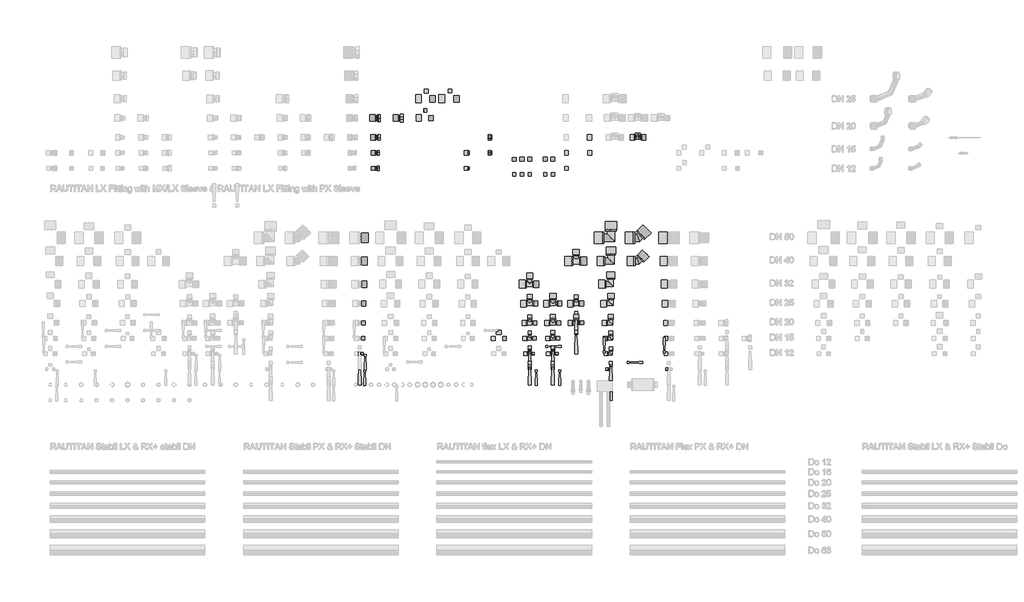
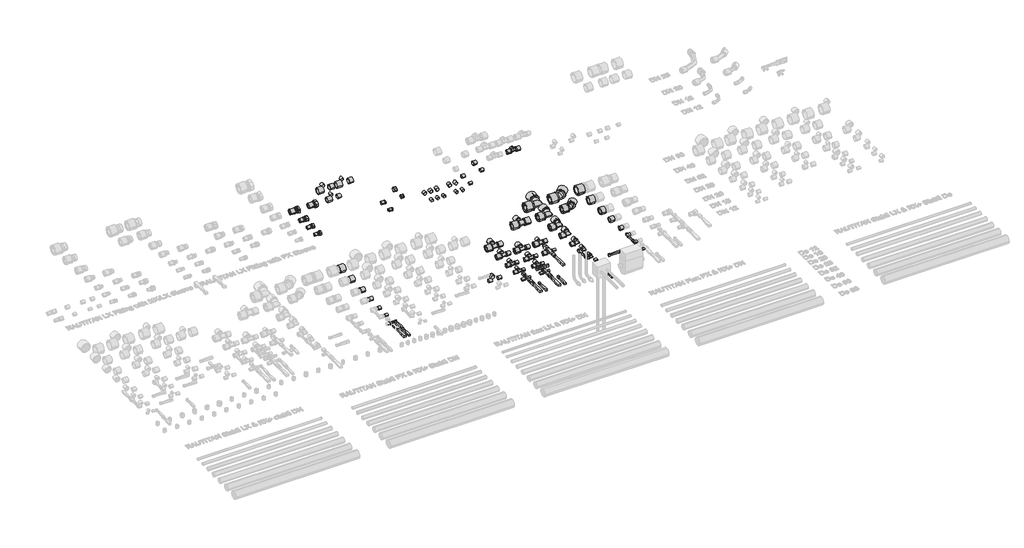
# One storey, part 5 of 18: 139 pipe fittings.
"""IFC4 building model written with IfcOpenShell, lengths in millimetres."""

from ifc_helpers import new_model, si_unit, origin, place, context, project, spatial, transform, mapped, element, save
from components import pipe_fitting_762b57f7, pipe_fitting_a06d4a4a, pipe_fitting_9dffc905, pipe_fitting_918ed5ed, pipe_fitting_eedfb6d1, pipe_fitting_bdd22d68, pipe_fitting_2e8cdfe4, pipe_fitting_aa9c421d, pipe_fitting_244e17d7, pipe_fitting_ff378167, pipe_fitting_f9876a37, pipe_fitting_159ec83a, pipe_fitting_2bffeb97, pipe_fitting_1542a3e7, pipe_fitting_65bb5a8a, pipe_fitting_0ecc4e03, pipe_fitting_cd996b98, pipe_fitting_0ffc8cdd, pipe_fitting_fe676349, pipe_fitting_5bd059d2, pipe_fitting_94e4dc49, pipe_fitting_3f66daf3, pipe_fitting_bdbaf0cc, pipe_fitting_7df122d3, pipe_fitting_ce982b0c, pipe_fitting_0fc6f2a1, pipe_fitting_7ed082ec, pipe_fitting_19f48449, pipe_fitting_b82b2fb3, pipe_fitting_5a7cbde5, pipe_fitting_91b0a5e7, pipe_fitting_dda8fcc3, pipe_fitting_f56030c5, sleeve_lx_7_4_533efbed, pipe_fitting_6fe5a3bb, pipe_fitting_396ce9a4, pipe_fitting_37e15ff8, pipe_fitting_5c01712a, pipe_fitting_b25a488c, sleeve_lx_7_4_d3d6d1e0, pipe_fitting_1876d1a3, dn1_c9c9eba3, dn1_749d9a03, dn1_037c3912, pipe_fitting_a8fbe6ac, pipe_fitting_d8f8e9d9

model = new_model("IFC4")

# Units and contexts
model_context = context("Model", 3, world=origin())
ifc_project = project(units=[si_unit("LENGTHUNIT", "METRE", prefix="MILLI")], contexts=[model_context])

# Site, building, storey
site = spatial("IfcSite", under=ifc_project)
building = spatial("IfcBuilding", under=site)
storey = spatial("IfcBuildingStorey", under=building, Name="REHAU Starting view", Elevation=0.0)

# Pipe fittings
placement = place(None, origin())
pipe_fitting_shape = pipe_fitting_762b57f7(model_context)
element("IfcPipeFitting", 1, ObjectType="REHAU_RAUTITAN_Cap_RX+ : REHAU_RAUTITAN_Cap_RX+", at=placement, inside=storey, context=model_context, shape_type="MappedRepresentation", body=[
    mapped(pipe_fitting_shape, transform((2842.5, 1500.0, 0.0), x_axis=(-1.0, 0.0, 0.0), y_axis=(0.0, -1.0, 0.0), z_axis=(0.0, 0.0, 1.0))),
])
pipe_fitting_2_shape = pipe_fitting_a06d4a4a(model_context)
element("IfcPipeFitting", 2, ObjectType="REHAU_RAUTITAN_Dummy_Plug_RX+ : REHAU_RAUTITAN_Dummy_Plug_RX+", at=placement, inside=storey, context=model_context, shape_type="MappedRepresentation", body=[
    mapped(pipe_fitting_2_shape, transform((2704.3, 1400.0, 0.0), x_axis=(-1.0, 0.0, 0.0), y_axis=(0.0, -1.0, 0.0), z_axis=(0.0, 0.0, 1.0))),
])
pipe_fitting_3_shape = pipe_fitting_9dffc905(model_context)
element("IfcPipeFitting", 3, ObjectType="RAUTITAN_T-piece_LX : RTI LX/PX T DN", at=placement, inside=storey, context=model_context, shape_type="MappedRepresentation", body=[
    mapped(pipe_fitting_3_shape, transform((3100.0, 100.0, 0.0), x_axis=(1.0, 0.0, 0.0), y_axis=(0.0, 1.0, 0.0), z_axis=(0.0, 0.0, 1.0))),
])
pipe_fitting_4_shape = pipe_fitting_918ed5ed(model_context)
element("IfcPipeFitting", 4, ObjectType="RAUTITAN_T-piece_LX : RTI LX/PX T DN", at=placement, inside=storey, context=model_context, shape_type="MappedRepresentation", body=[
    mapped(pipe_fitting_4_shape, transform((3100.0, 300.0, 0.0), x_axis=(1.0, 0.0, 0.0), y_axis=(0.0, 1.0, 0.0), z_axis=(0.0, 0.0, 1.0))),
])
pipe_fitting_5_shape = pipe_fitting_eedfb6d1(model_context)
element("IfcPipeFitting", 5, ObjectType="RAUTITAN_T-piece_LX : RTI LX/PX T DN", at=placement, inside=storey, context=model_context, shape_type="MappedRepresentation", body=[
    mapped(pipe_fitting_5_shape, transform((3100.0, 425.0, 0.0), x_axis=(1.0, 0.0, 0.0), y_axis=(0.0, 1.0, 0.0), z_axis=(0.0, 0.0, 1.0))),
])
pipe_fitting_6_shape = pipe_fitting_bdd22d68(model_context)
element("IfcPipeFitting", 6, ObjectType="RAUTITAN_T-piece_LX : RTI LX/PX T DN", at=placement, inside=storey, context=model_context, shape_type="MappedRepresentation", body=[
    mapped(pipe_fitting_6_shape, transform((3100.0, 550.0, 0.0), x_axis=(1.0, 0.0, 0.0), y_axis=(0.0, 1.0, 0.0), z_axis=(0.0, 0.0, 1.0))),
])
pipe_fitting_7_shape = pipe_fitting_2e8cdfe4(model_context)
element("IfcPipeFitting", 7, ObjectType="RAUTITAN_T-piece_LX : RTI LX/PX T DN", at=placement, inside=storey, context=model_context, shape_type="MappedRepresentation", body=[
    mapped(pipe_fitting_7_shape, transform((3100.0, 200.0, 0.0), x_axis=(1.0, 0.0, 0.0), y_axis=(0.0, 1.0, 0.0), z_axis=(0.0, 0.0, 1.0))),
])
pipe_fitting_8_shape = pipe_fitting_aa9c421d(model_context)
element("IfcPipeFitting", 8, ObjectType="RAUTITAN_T-piece_LX : RTI LX/PX T DN", at=placement, inside=storey, context=model_context, shape_type="MappedRepresentation", body=[
    mapped(pipe_fitting_8_shape, transform((3250.0, 100.0, 0.0), x_axis=(1.0, 0.0, 0.0), y_axis=(0.0, 1.0, 0.0), z_axis=(0.0, 0.0, 1.0))),
])
pipe_fitting_9_shape = pipe_fitting_244e17d7(model_context)
element("IfcPipeFitting", 9, ObjectType="RAUTITAN_T-piece_LX : RTI LX/PX T DN", at=placement, inside=storey, context=model_context, shape_type="MappedRepresentation", body=[
    mapped(pipe_fitting_9_shape, transform((3250.0, 300.0, 0.0), x_axis=(1.0, 0.0, 0.0), y_axis=(0.0, 1.0, 0.0), z_axis=(0.0, 0.0, 1.0))),
])
pipe_fitting_10_shape = pipe_fitting_ff378167(model_context)
element("IfcPipeFitting", 10, ObjectType="RAUTITAN_T-piece_LX : RTI LX/PX T DN", at=placement, inside=storey, context=model_context, shape_type="MappedRepresentation", body=[
    mapped(pipe_fitting_10_shape, transform((3250.0, 425.0, 0.0), x_axis=(1.0, 0.0, 0.0), y_axis=(0.0, 1.0, 0.0), z_axis=(0.0, 0.0, 1.0))),
])
pipe_fitting_11_shape = pipe_fitting_f9876a37(model_context)
element("IfcPipeFitting", 11, ObjectType="RAUTITAN_T-piece_LX : RTI LX/PX T DN", at=placement, inside=storey, context=model_context, shape_type="MappedRepresentation", body=[
    mapped(pipe_fitting_11_shape, transform((3250.0, 200.0, 0.0), x_axis=(1.0, 0.0, 0.0), y_axis=(0.0, 1.0, 0.0), z_axis=(0.0, 0.0, 1.0))),
])
pipe_fitting_12_shape = pipe_fitting_159ec83a(model_context)
element("IfcPipeFitting", 12, ObjectType="RAUTITAN_T-piece_LX : RTI LX/PX T DN", at=placement, inside=storey, context=model_context, shape_type="MappedRepresentation", body=[
    mapped(pipe_fitting_12_shape, transform((3400.0, 700.0, 0.0), x_axis=(1.0, 0.0, 0.0), y_axis=(0.0, 1.0, 0.0), z_axis=(0.0, 0.0, 1.0))),
])
pipe_fitting_13_shape = pipe_fitting_2bffeb97(model_context)
element("IfcPipeFitting", 13, ObjectType="RAUTITAN_T-piece_LX : RTI LX/PX T DN", at=placement, inside=storey, context=model_context, shape_type="MappedRepresentation", body=[
    mapped(pipe_fitting_13_shape, transform((3400.0, 300.0, 0.0), x_axis=(1.0, 0.0, 0.0), y_axis=(0.0, 1.0, 0.0), z_axis=(0.0, 0.0, 1.0))),
])
pipe_fitting_14_shape = pipe_fitting_1542a3e7(model_context)
element("IfcPipeFitting", 14, ObjectType="RAUTITAN_T-piece_LX : RTI LX/PX T DN", at=placement, inside=storey, context=model_context, shape_type="MappedRepresentation", body=[
    mapped(pipe_fitting_14_shape, transform((3400.0, 425.0, 0.0), x_axis=(1.0, 0.0, 0.0), y_axis=(0.0, 1.0, 0.0), z_axis=(0.0, 0.0, 1.0))),
])
pipe_fitting_15_shape = pipe_fitting_65bb5a8a(model_context)
element("IfcPipeFitting", 15, ObjectType="REHAU_RAUTITAN_T-piece RX+, outlet with internal thread : REHAU_RAUTITAN_T-piece RX+, outlet with internal thread", at=placement, inside=storey, context=model_context, shape_type="MappedRepresentation", body=[
    mapped(pipe_fitting_15_shape, transform((3800.0, 1500.0, 0.0), x_axis=(1.0, 0.0, 0.0), y_axis=(0.0, 1.0, 0.0), z_axis=(0.0, 0.0, 1.0))),
])
pipe_fitting_16_shape = pipe_fitting_0ecc4e03(model_context)
element("IfcPipeFitting", 16, ObjectType="REHAU_RAUTITAN_Adaptor_RX+_union nut : REHAU_RAUTITAN_Adaptor_RX+_union nut", at=placement, inside=storey, context=model_context, shape_type="MappedRepresentation", body=[
    mapped(pipe_fitting_16_shape, transform((2107.5, 1300.0, 0.0), x_axis=(1.0, 0.0, 0.0), y_axis=(0.0, 1.0, 0.0), z_axis=(0.0, 0.0, 1.0))),
])
pipe_fitting_17_shape = pipe_fitting_cd996b98(model_context)
element("IfcPipeFitting", 17, ObjectType="REHAU_RAUTITAN_Adaptor_RX+_union nut : REHAU_RAUTITAN_Adaptor_RX+_union nut", at=placement, inside=storey, context=model_context, shape_type="MappedRepresentation", body=[
    mapped(pipe_fitting_17_shape, transform((2107.9, 1400.0, 0.0), x_axis=(1.0, 0.0, 0.0), y_axis=(0.0, 1.0, 0.0), z_axis=(0.0, 0.0, 1.0))),
])
pipe_fitting_18_shape = pipe_fitting_0ffc8cdd(model_context)
element("IfcPipeFitting", 18, ObjectType="REHAU_RAUTITAN_Adaptor_RX+_union nut : REHAU_RAUTITAN_Adaptor_RX+_union nut", at=placement, inside=storey, context=model_context, shape_type="MappedRepresentation", body=[
    mapped(pipe_fitting_18_shape, transform((2109.65, 1500.0, 0.0), x_axis=(1.0, 0.0, 0.0), y_axis=(0.0, 1.0, 0.0), z_axis=(0.0, 0.0, 1.0))),
])
pipe_fitting_19_shape = pipe_fitting_fe676349(model_context)
element("IfcPipeFitting", 19, ObjectType="REHAU_RAUTITAN_Adaptor_RX+_union nut : REHAU_RAUTITAN_Adaptor_RX+_union nut", at=placement, inside=storey, context=model_context, shape_type="MappedRepresentation", body=[
    mapped(pipe_fitting_19_shape, transform((2110.5, 1625.0, 0.0), x_axis=(1.0, 0.0, 0.0), y_axis=(0.0, 1.0, 0.0), z_axis=(0.0, 0.0, 1.0))),
])
pipe_fitting_20_shape = pipe_fitting_5bd059d2(model_context)
element("IfcPipeFitting", 20, ObjectType="REHAU_RAUTITAN_Adaptor_RX+_union nut : REHAU_RAUTITAN_Adaptor_RX+_union nut", at=placement, inside=storey, context=model_context, shape_type="MappedRepresentation", body=[
    mapped(pipe_fitting_20_shape, transform((2258.0, 1625.0, 0.0), x_axis=(1.0, 0.0, 0.0), y_axis=(0.0, 1.0, 0.0), z_axis=(0.0, 0.0, 1.0))),
])
pipe_fitting_21_shape = pipe_fitting_94e4dc49(model_context)
element("IfcPipeFitting", 21, ObjectType="REHAU_RAUTITAN_Dummy_Plug_RX+ : REHAU_RAUTITAN_Dummy_Plug_RX+", at=placement, inside=storey, context=model_context, shape_type="MappedRepresentation", body=[
    mapped(pipe_fitting_21_shape, transform((2703.8, 1300.0, 0.0), x_axis=(-1.0, 0.0, 0.0), y_axis=(0.0, -1.0, 0.0), z_axis=(0.0, 0.0, 1.0))),
])
pipe_fitting_22_shape = pipe_fitting_3f66daf3(model_context)
element("IfcPipeFitting", 22, ObjectType="REHAU_RAUTITAN_Cap_RX+ : REHAU_RAUTITAN_Cap_RX+", at=placement, inside=storey, context=model_context, shape_type="MappedRepresentation", body=[
    mapped(pipe_fitting_22_shape, transform((2843.25, 1400.0, 0.0), x_axis=(-1.0, 0.0, 0.0), y_axis=(0.0, -1.0, 0.0), z_axis=(0.0, 0.0, 1.0))),
])
pipe_fitting_23_shape = pipe_fitting_bdbaf0cc(model_context)
element("IfcPipeFitting", 23, ObjectType="RAUTITAN_Corner_LX : RTI LX/PX C DN", at=placement, inside=storey, context=model_context, shape_type="MappedRepresentation", body=[
    mapped(pipe_fitting_23_shape, transform((3625.0, 100.0, 0.0), x_axis=(1.0, 0.0, 0.0), y_axis=(0.0, 1.0, 0.0), z_axis=(0.0, 0.0, 1.0))),
])
pipe_fitting_24_shape = pipe_fitting_7df122d3(model_context)
element("IfcPipeFitting", 24, ObjectType="RAUTITAN_Corner_LX : RTI LX/PX C DN", at=placement, inside=storey, context=model_context, shape_type="MappedRepresentation", body=[
    mapped(pipe_fitting_24_shape, transform((3625.0, 0.0, 0.0), x_axis=(1.0, 0.0, 0.0), y_axis=(0.0, 1.0, 0.0), z_axis=(0.0, 0.0, 1.0))),
])
pipe_fitting_25_shape = pipe_fitting_ce982b0c(model_context)
element("IfcPipeFitting", 25, ObjectType="RAUTITAN_Transition_LX : RTI LX Tr DN", at=placement, inside=storey, context=model_context, shape_type="MappedRepresentation", body=[
    mapped(pipe_fitting_25_shape, transform((2000.0, 100.0, 0.0), x_axis=(1.0, 0.0, 0.0), y_axis=(0.0, 1.0, 0.0), z_axis=(0.0, 0.0, 1.0))),
])
pipe_fitting_26_shape = pipe_fitting_0fc6f2a1(model_context)
element("IfcPipeFitting", 26, ObjectType="RAUTITAN_Corner_LX : RTI LX/PX C DN", at=placement, inside=storey, context=model_context, shape_type="MappedRepresentation", body=[
    mapped(pipe_fitting_26_shape, transform((3800.0, 850.0, 0.0), x_axis=(1.0, 0.0, 0.0), y_axis=(0.0, 1.0, 0.0), z_axis=(0.0, 0.0, 1.0))),
])
pipe_fitting_27_shape = pipe_fitting_7ed082ec(model_context)
element("IfcPipeFitting", 27, ObjectType="RAUTITAN_Corner_LX : RTI LX/PX C DN", at=placement, inside=storey, context=model_context, shape_type="MappedRepresentation", body=[
    mapped(pipe_fitting_27_shape, transform((3625.0, 200.0, 0.0), x_axis=(1.0, 0.0, 0.0), y_axis=(0.0, 1.0, 0.0), z_axis=(0.0, 0.0, 1.0))),
])
pipe_fitting_28_shape = pipe_fitting_19f48449(model_context)
element("IfcPipeFitting", 28, ObjectType="RAUTITAN_Corner_LX : RTI LX/PX C DN", at=placement, inside=storey, context=model_context, shape_type="MappedRepresentation", body=[
    mapped(pipe_fitting_28_shape, transform((3625.0, 300.0, 0.0), x_axis=(1.0, 0.0, 0.0), y_axis=(0.0, 1.0, 0.0), z_axis=(0.0, 0.0, 1.0))),
])
pipe_fitting_29_shape = pipe_fitting_b82b2fb3(model_context)
element("IfcPipeFitting", 29, ObjectType="RAUTITAN_Corner_LX : RTI LX/PX C DN", at=placement, inside=storey, context=model_context, shape_type="MappedRepresentation", body=[
    mapped(pipe_fitting_29_shape, transform((3625.0, 425.0, 0.0), x_axis=(1.0, 0.0, 0.0), y_axis=(0.0, 1.0, 0.0), z_axis=(0.0, 0.0, 1.0))),
])
pipe_fitting_30_shape = pipe_fitting_5a7cbde5(model_context)
element("IfcPipeFitting", 30, ObjectType="RAUTITAN_Corner_LX : RTI LX/PX C DN", at=placement, inside=storey, context=model_context, shape_type="MappedRepresentation", body=[
    mapped(pipe_fitting_30_shape, transform((3625.0, 550.0, 0.0), x_axis=(1.0, 0.0, 0.0), y_axis=(0.0, 1.0, 0.0), z_axis=(0.0, 0.0, 1.0))),
])
pipe_fitting_31_shape = pipe_fitting_91b0a5e7(model_context)
element("IfcPipeFitting", 31, ObjectType="RAUTITAN_Corner_LX : RTI LX/PX C DN", at=placement, inside=storey, context=model_context, shape_type="MappedRepresentation", body=[
    mapped(pipe_fitting_31_shape, transform((3625.0, 700.0, 0.0), x_axis=(1.0, 0.0, 0.0), y_axis=(0.0, 1.0, 0.0), z_axis=(0.0, 0.0, 1.0))),
])
pipe_fitting_32_shape = pipe_fitting_dda8fcc3(model_context)
element("IfcPipeFitting", 32, ObjectType="RAUTITAN_Corner_LX : RTI LX/PX C DN", at=placement, inside=storey, context=model_context, shape_type="MappedRepresentation", body=[
    mapped(pipe_fitting_32_shape, transform((3625.0, 850.0, 0.0), x_axis=(1.0, 0.0, 0.0), y_axis=(0.0, 1.0, 0.0), z_axis=(0.0, 0.0, 1.0))),
])
pipe_fitting_33_shape = pipe_fitting_f56030c5(model_context)
element("IfcPipeFitting", 33, ObjectType="RAUTITAN_Corner_LX : RTI LX/PX C DN", at=placement, inside=storey, context=model_context, shape_type="MappedRepresentation", body=[
    mapped(pipe_fitting_33_shape, transform((3800.0, 700.0, 0.0), x_axis=(1.0, 0.0, 0.0), y_axis=(0.0, 1.0, 0.0), z_axis=(0.0, 0.0, 1.0))),
])
sleeve_lx_7_4_shape = sleeve_lx_7_4_533efbed(model_context)
element("IfcPipeFitting", 34, ObjectType="Sleeve : LX 7,4", at=placement, inside=storey, context=model_context, shape_type="MappedRepresentation", body=[
    mapped(sleeve_lx_7_4_shape, transform((3100.0, 122.0, 0.0), x_axis=(0.0, 1.0, 0.0), y_axis=(-1.0, 0.0, 0.0), z_axis=(0.0, 0.0, 1.0))),
])
element("IfcPipeFitting", 35, ObjectType="Sleeve : LX 7,4", at=placement, inside=storey, context=model_context, shape_type="MappedRepresentation", body=[
    mapped(sleeve_lx_7_4_shape, transform((3115.5, 100.0, 0.0), x_axis=(1.0, 0.0, 0.0), y_axis=(0.0, 1.0, 0.0), z_axis=(0.0, 0.0, 1.0))),
])
element("IfcPipeFitting", 36, ObjectType="Sleeve : LX 7,4", at=placement, inside=storey, context=model_context, shape_type="MappedRepresentation", body=[
    mapped(sleeve_lx_7_4_shape, transform((3268.3, 100.0, 0.0), x_axis=(1.0, 0.0, 0.0), y_axis=(0.0, 1.0, 0.0), z_axis=(0.0, 0.0, 1.0))),
])
element("IfcPipeFitting", 37, ObjectType="Sleeve : LX 7,4", at=placement, inside=storey, context=model_context, shape_type="MappedRepresentation", body=[
    mapped(sleeve_lx_7_4_shape, transform((3994.5, 0.0, 0.0), x_axis=(-1.0, 0.0, 0.0), y_axis=(0.0, -1.0, 0.0), z_axis=(0.0, 0.0, 1.0))),
])
element("IfcPipeFitting", 38, ObjectType="Sleeve : LX 7,4", at=placement, inside=storey, context=model_context, shape_type="MappedRepresentation", body=[
    mapped(sleeve_lx_7_4_shape, transform((3607.0, 0.0, 0.0), x_axis=(-1.0, 0.0, 0.0), y_axis=(0.0, -1.0, 0.0), z_axis=(0.0, 0.0, 1.0))),
])
element("IfcPipeFitting", 39, ObjectType="Sleeve : LX 7,4", at=placement, inside=storey, context=model_context, shape_type="MappedRepresentation", body=[
    mapped(sleeve_lx_7_4_shape, transform((3625.0, 18.0, 0.0), x_axis=(0.0, 1.0, 0.0), y_axis=(-1.0, 0.0, 0.0), z_axis=(0.0, 0.0, 1.0))),
])
element("IfcPipeFitting", 40, ObjectType="Sleeve : LX 7,4", at=placement, inside=storey, context=model_context, shape_type="MappedRepresentation", body=[
    mapped(sleeve_lx_7_4_shape, transform((2008.5, 100.0, 0.0), x_axis=(1.0, 0.0, 0.0), y_axis=(0.0, 1.0, 0.0), z_axis=(0.0, 0.0, 1.0))),
])
pipe_fitting_34_shape = pipe_fitting_6fe5a3bb(model_context)
element("IfcPipeFitting", 41, ObjectType="Sleeve : LX 7,4", at=placement, inside=storey, context=model_context, shape_type="MappedRepresentation", body=[
    mapped(pipe_fitting_34_shape, transform((2010.0, 300.0, 0.0), x_axis=(1.0, 0.0, 0.0), y_axis=(0.0, 1.0, 0.0), z_axis=(0.0, 0.0, 1.0))),
])
pipe_fitting_35_shape = pipe_fitting_396ce9a4(model_context)
element("IfcPipeFitting", 42, ObjectType="Sleeve : LX 7,4", at=placement, inside=storey, context=model_context, shape_type="MappedRepresentation", body=[
    mapped(pipe_fitting_35_shape, transform((2011.85, 425.0, 0.0), x_axis=(1.0, 0.0, 0.0), y_axis=(0.0, 1.0, 0.0), z_axis=(0.0, 0.0, 1.0))),
])
pipe_fitting_36_shape = pipe_fitting_37e15ff8(model_context)
element("IfcPipeFitting", 43, ObjectType="Sleeve : LX 7,4", at=placement, inside=storey, context=model_context, shape_type="MappedRepresentation", body=[
    mapped(pipe_fitting_36_shape, transform((2011.0, 700.0, 0.0), x_axis=(1.0, 0.0, 0.0), y_axis=(0.0, 1.0, 0.0), z_axis=(0.0, 0.0, 1.0))),
])
pipe_fitting_37_shape = pipe_fitting_5c01712a(model_context)
element("IfcPipeFitting", 44, ObjectType="Sleeve : LX 7,4", at=placement, inside=storey, context=model_context, shape_type="MappedRepresentation", body=[
    mapped(pipe_fitting_37_shape, transform((3579.0, 700.0, 0.0), x_axis=(-1.0, 0.0, 0.0), y_axis=(0.0, -1.0, 0.0), z_axis=(0.0, 0.0, 1.0))),
])
element("IfcPipeFitting", 45, ObjectType="Sleeve : LX 7,4", at=placement, inside=storey, context=model_context, shape_type="MappedRepresentation", body=[
    mapped(pipe_fitting_37_shape, transform((3625.0, 746.0, 0.0), x_axis=(0.0, 1.0, 0.0), y_axis=(-1.0, 0.0, 0.0), z_axis=(0.0, 0.0, 1.0))),
])
element("IfcPipeFitting", 46, ObjectType="Sleeve : LX 7,4", at=placement, inside=storey, context=model_context, shape_type="MappedRepresentation", body=[
    mapped(pipe_fitting_37_shape, transform((3774.0, 700.0, 0.0), x_axis=(-1.0, 0.0, 0.0), y_axis=(0.0, -1.0, 0.0), z_axis=(0.0, 0.0, 1.0))),
])
element("IfcPipeFitting", 47, ObjectType="Sleeve : LX 7,4", at=placement, inside=storey, context=model_context, shape_type="MappedRepresentation", body=[
    mapped(pipe_fitting_37_shape, transform((3818.3847763, 718.3847763, 0.0), x_axis=(0.7071067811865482, 0.7071067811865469, 0.0), y_axis=(-0.7071067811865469, 0.7071067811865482, 0.0), z_axis=(0.0, 0.0, 1.0))),
])
element("IfcPipeFitting", 48, ObjectType="Sleeve : LX 7,4", at=placement, inside=storey, context=model_context, shape_type="MappedRepresentation", body=[
    mapped(pipe_fitting_37_shape, transform((3370.5, 700.0, 0.0), x_axis=(-1.0, 0.0, 0.0), y_axis=(0.0, -1.0, 0.0), z_axis=(0.0, 0.0, 1.0))),
])
element("IfcPipeFitting", 49, ObjectType="Sleeve : LX 7,4", at=placement, inside=storey, context=model_context, shape_type="MappedRepresentation", body=[
    mapped(pipe_fitting_37_shape, transform((2011.75, 850.0, 0.0), x_axis=(1.0, 0.0, 0.0), y_axis=(0.0, 1.0, 0.0), z_axis=(0.0, 0.0, 1.0))),
])
element("IfcPipeFitting", 50, ObjectType="Sleeve : LX 7,4", at=placement, inside=storey, context=model_context, shape_type="MappedRepresentation", body=[
    mapped(pipe_fitting_37_shape, transform((3989.0, 700.0, 0.0), x_axis=(-1.0, 0.0, 0.0), y_axis=(0.0, -1.0, 0.0), z_axis=(0.0, 0.0, 1.0))),
])
pipe_fitting_38_shape = pipe_fitting_b25a488c(model_context)
element("IfcPipeFitting", 51, ObjectType="Sleeve : LX 7,4", at=placement, inside=storey, context=model_context, shape_type="MappedRepresentation", body=[
    mapped(pipe_fitting_38_shape, transform((3571.0, 850.0, 0.0), x_axis=(-1.0, 0.0, 0.0), y_axis=(0.0, -1.0, 0.0), z_axis=(0.0, 0.0, 1.0))),
])
element("IfcPipeFitting", 52, ObjectType="Sleeve : LX 7,4", at=placement, inside=storey, context=model_context, shape_type="MappedRepresentation", body=[
    mapped(pipe_fitting_38_shape, transform((3625.0, 904.0, 0.0), x_axis=(0.0, 1.0, 0.0), y_axis=(-1.0, 0.0, 0.0), z_axis=(0.0, 0.0, 1.0))),
])
element("IfcPipeFitting", 53, ObjectType="Sleeve : LX 7,4", at=placement, inside=storey, context=model_context, shape_type="MappedRepresentation", body=[
    mapped(pipe_fitting_38_shape, transform((3770.7, 850.0, 0.0), x_axis=(-1.0, 0.0, 0.0), y_axis=(0.0, -1.0, 0.0), z_axis=(0.0, 0.0, 1.0))),
])
element("IfcPipeFitting", 54, ObjectType="Sleeve : LX 7,4", at=placement, inside=storey, context=model_context, shape_type="MappedRepresentation", body=[
    mapped(pipe_fitting_38_shape, transform((3820.7182287, 870.7182287, 0.0), x_axis=(0.7071067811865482, 0.7071067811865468, 0.0), y_axis=(-0.7071067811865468, 0.7071067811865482, 0.0), z_axis=(0.0, 0.0, 1.0))),
])
element("IfcPipeFitting", 55, ObjectType="Sleeve : LX 7,4", at=placement, inside=storey, context=model_context, shape_type="MappedRepresentation", body=[
    mapped(pipe_fitting_38_shape, transform((3987.5, 850.0, 0.0), x_axis=(-1.0, 0.0, 0.0), y_axis=(0.0, -1.0, 0.0), z_axis=(0.0, 0.0, 1.0))),
])
sleeve_lx_7_4_2_shape = sleeve_lx_7_4_d3d6d1e0(model_context)
element("IfcPipeFitting", 56, ObjectType="Sleeve : LX 7,4", at=placement, inside=storey, context=model_context, shape_type="MappedRepresentation", body=[
    mapped(sleeve_lx_7_4_2_shape, transform((2009.55, 200.0, 0.0), x_axis=(1.0, 0.0, 0.0), y_axis=(0.0, 1.0, 0.0), z_axis=(0.0, 0.0, 1.0))),
])
pipe_fitting_39_shape = pipe_fitting_1876d1a3(model_context)
element("IfcPipeFitting", 57, ObjectType="Sleeve : LX 7,4", at=placement, inside=storey, context=model_context, shape_type="MappedRepresentation", body=[
    mapped(pipe_fitting_39_shape, transform((2012.65, 550.0, 0.0), x_axis=(1.0, 0.0, 0.0), y_axis=(0.0, 1.0, 0.0), z_axis=(0.0, 0.0, 1.0))),
])
dn1_shape = dn1_c9c9eba3(model_context)
element("IfcPipeFitting", 58, ObjectType="Sleeve : PX 7,4", at=placement, inside=storey, context=model_context, shape_type="MappedRepresentation", body=[
    mapped(dn1_shape, transform((3604.0, 100.0, 0.0), x_axis=(-1.0, 0.0, 0.0), y_axis=(0.0, -1.0, 0.0), z_axis=(0.0, 0.0, 1.0))),
])
element("IfcPipeFitting", 59, ObjectType="Sleeve : PX 7,4", at=placement, inside=storey, context=model_context, shape_type="MappedRepresentation", body=[
    mapped(dn1_shape, transform((3625.0, 121.0, 0.0), x_axis=(0.0, 1.0, 0.0), y_axis=(-1.0, 0.0, 0.0), z_axis=(0.0, 0.0, 1.0))),
])
element("IfcPipeFitting", 60, ObjectType="Sleeve : PX 7,4", at=placement, inside=storey, context=model_context, shape_type="MappedRepresentation", body=[
    mapped(dn1_shape, transform((3084.4, 100.0, 0.0), x_axis=(-1.0, 0.0, 0.0), y_axis=(0.0, -1.0, 0.0), z_axis=(0.0, 0.0, 1.0))),
])
element("IfcPipeFitting", 61, ObjectType="Sleeve : PX 7,4", at=placement, inside=storey, context=model_context, shape_type="MappedRepresentation", body=[
    mapped(dn1_shape, transform((3100.0, 223.7, 0.0), x_axis=(0.0, 1.0, 0.0), y_axis=(-1.0, 0.0, 0.0), z_axis=(0.0, 0.0, 1.0))),
])
element("IfcPipeFitting", 62, ObjectType="Sleeve : PX 7,4", at=placement, inside=storey, context=model_context, shape_type="MappedRepresentation", body=[
    mapped(dn1_shape, transform((3118.6, 200.0, 0.0), x_axis=(1.0, 0.0, 0.0), y_axis=(0.0, 1.0, 0.0), z_axis=(0.0, 0.0, 1.0))),
])
element("IfcPipeFitting", 63, ObjectType="Sleeve : PX 7,4", at=placement, inside=storey, context=model_context, shape_type="MappedRepresentation", body=[
    mapped(dn1_shape, transform((3231.4, 100.0, 0.0), x_axis=(-1.0, 0.0, 0.0), y_axis=(0.0, -1.0, 0.0), z_axis=(0.0, 0.0, 1.0))),
])
element("IfcPipeFitting", 64, ObjectType="Sleeve : PX 7,4", at=placement, inside=storey, context=model_context, shape_type="MappedRepresentation", body=[
    mapped(dn1_shape, transform((3250.0, 122.3, 0.0), x_axis=(0.0, 1.0, 0.0), y_axis=(-1.0, 0.0, 0.0), z_axis=(0.0, 0.0, 1.0))),
])
element("IfcPipeFitting", 65, ObjectType="Sleeve : PX 7,4", at=placement, inside=storey, context=model_context, shape_type="MappedRepresentation", body=[
    mapped(dn1_shape, transform((3270.6, 200.0, 0.0), x_axis=(1.0, 0.0, 0.0), y_axis=(0.0, 1.0, 0.0), z_axis=(0.0, 0.0, 1.0))),
])
element("IfcPipeFitting", 66, ObjectType="Sleeve : PX 7,4", at=placement, inside=storey, context=model_context, shape_type="MappedRepresentation", body=[
    mapped(dn1_shape, transform((3424.1, 300.0, 0.0), x_axis=(1.0, 0.0, 0.0), y_axis=(0.0, 1.0, 0.0), z_axis=(0.0, 0.0, 1.0))),
])
element("IfcPipeFitting", 67, ObjectType="Sleeve : PX 7,4", at=placement, inside=storey, context=model_context, shape_type="MappedRepresentation", body=[
    mapped(dn1_shape, transform((3993.7, 100.0, 0.0), x_axis=(-1.0, 0.0, 0.0), y_axis=(0.0, -1.0, 0.0), z_axis=(0.0, 0.0, 1.0))),
])
element("IfcPipeFitting", 68, ObjectType="Sleeve : PX 7,4", at=placement, inside=storey, context=model_context, shape_type="MappedRepresentation", body=[
    mapped(dn1_shape, transform((2424.74, 1661.8, 0.0), x_axis=(0.0, 1.0, 0.0), y_axis=(1.0, 0.0, 0.0), z_axis=(0.0, 0.0, -1.0))),
])
element("IfcPipeFitting", 69, ObjectType="Sleeve : PX 7,4", at=placement, inside=storey, context=model_context, shape_type="MappedRepresentation", body=[
    mapped(dn1_shape, transform((3200.0, 1272.0, 0.0), x_axis=(0.0, -1.0, 0.0), y_axis=(1.0, 0.0, 0.0), z_axis=(0.0, 0.0, 1.0))),
])
element("IfcPipeFitting", 70, ObjectType="Sleeve : PX 7,4", at=placement, inside=storey, context=model_context, shape_type="MappedRepresentation", body=[
    mapped(dn1_shape, transform((3250.0, 1272.0, 0.0), x_axis=(0.0, -1.0, 0.0), y_axis=(1.0, 0.0, 0.0), z_axis=(0.0, 0.0, 1.0))),
])
element("IfcPipeFitting", 71, ObjectType="Sleeve : PX 7,4", at=placement, inside=storey, context=model_context, shape_type="MappedRepresentation", body=[
    mapped(dn1_shape, transform((3000.0, 1272.0, 0.0), x_axis=(0.0, -1.0, 0.0), y_axis=(1.0, 0.0, 0.0), z_axis=(0.0, 0.0, 1.0))),
])
element("IfcPipeFitting", 72, ObjectType="Sleeve : PX 7,4", at=placement, inside=storey, context=model_context, shape_type="MappedRepresentation", body=[
    mapped(dn1_shape, transform((3050.0, 1272.0, 0.0), x_axis=(0.0, -1.0, 0.0), y_axis=(1.0, 0.0, 0.0), z_axis=(0.0, 0.0, 1.0))),
])
element("IfcPipeFitting", 73, ObjectType="Sleeve : PX 7,4", at=placement, inside=storey, context=model_context, shape_type="MappedRepresentation", body=[
    mapped(dn1_shape, transform((3100.0, 1272.0, 0.0), x_axis=(0.0, -1.0, 0.0), y_axis=(1.0, 0.0, 0.0), z_axis=(0.0, 0.0, 1.0))),
])
element("IfcPipeFitting", 74, ObjectType="Sleeve : PX 7,4", at=placement, inside=storey, context=model_context, shape_type="MappedRepresentation", body=[
    mapped(dn1_shape, transform((2700.0, 1300.0, 0.0), x_axis=(-1.0, 0.0, 0.0), y_axis=(0.0, -1.0, 0.0), z_axis=(0.0, 0.0, 1.0))),
])
element("IfcPipeFitting", 75, ObjectType="Sleeve : PX 7,4", at=placement, inside=storey, context=model_context, shape_type="MappedRepresentation", body=[
    mapped(dn1_shape, transform((3350.0, 1300.0, 0.0), x_axis=(-1.0, 0.0, 0.0), y_axis=(0.0, -1.0, 0.0), z_axis=(0.0, 0.0, 1.0))),
])
element("IfcPipeFitting", 76, ObjectType="Sleeve : PX 7,4", at=placement, inside=storey, context=model_context, shape_type="MappedRepresentation", body=[
    mapped(dn1_shape, transform((2076.3, 1300.0, 0.0), x_axis=(1.0, 0.0, 0.0), y_axis=(0.0, 1.0, 0.0), z_axis=(0.0, 0.0, 1.0))),
])
element("IfcPipeFitting", 77, ObjectType="Sleeve : PX 7,4", at=placement, inside=storey, context=model_context, shape_type="MappedRepresentation", body=[
    mapped(dn1_shape, transform((2584.0, 1789.3, 0.0), x_axis=(0.0, 1.0, 0.0), y_axis=(1.0, 0.0, 0.0), z_axis=(0.0, 0.0, -1.0))),
])
dn1_2_shape = dn1_749d9a03(model_context)
element("IfcPipeFitting", 78, ObjectType="Sleeve : PX 7,4", at=placement, inside=storey, context=model_context, shape_type="MappedRepresentation", body=[
    mapped(dn1_2_shape, transform((3601.5, 200.0, 0.0), x_axis=(-1.0, 0.0, 0.0), y_axis=(0.0, -1.0, 0.0), z_axis=(0.0, 0.0, 1.0))),
])
element("IfcPipeFitting", 79, ObjectType="Sleeve : PX 7,4", at=placement, inside=storey, context=model_context, shape_type="MappedRepresentation", body=[
    mapped(dn1_2_shape, transform((3625.0, 223.5, 0.0), x_axis=(0.0, 1.0, 0.0), y_axis=(-1.0, 0.0, 0.0), z_axis=(0.0, 0.0, 1.0))),
])
element("IfcPipeFitting", 80, ObjectType="Sleeve : PX 7,4", at=placement, inside=storey, context=model_context, shape_type="MappedRepresentation", body=[
    mapped(dn1_2_shape, transform((2875.4, 200.0, 0.0), x_axis=(-1.0, 0.0, 0.0), y_axis=(0.0, -1.0, 0.0), z_axis=(0.0, 0.0, 1.0))),
])
element("IfcPipeFitting", 81, ObjectType="Sleeve : PX 7,4", at=placement, inside=storey, context=model_context, shape_type="MappedRepresentation", body=[
    mapped(dn1_2_shape, transform((2924.6, 200.0, 0.0), x_axis=(1.0, 0.0, 0.0), y_axis=(0.0, 1.0, 0.0), z_axis=(0.0, 0.0, 1.0))),
])
element("IfcPipeFitting", 82, ObjectType="Sleeve : PX 7,4", at=placement, inside=storey, context=model_context, shape_type="MappedRepresentation", body=[
    mapped(dn1_2_shape, transform((3100.0, 327.2, 0.0), x_axis=(0.0, 1.0, 0.0), y_axis=(-1.0, 0.0, 0.0), z_axis=(0.0, 0.0, 1.0))),
])
element("IfcPipeFitting", 83, ObjectType="Sleeve : PX 7,4", at=placement, inside=storey, context=model_context, shape_type="MappedRepresentation", body=[
    mapped(dn1_2_shape, transform((3121.1, 300.0, 0.0), x_axis=(1.0, 0.0, 0.0), y_axis=(0.0, 1.0, 0.0), z_axis=(0.0, 0.0, 1.0))),
])
element("IfcPipeFitting", 84, ObjectType="Sleeve : PX 7,4", at=placement, inside=storey, context=model_context, shape_type="MappedRepresentation", body=[
    mapped(dn1_2_shape, transform((3080.9, 200.0, 0.0), x_axis=(-1.0, 0.0, 0.0), y_axis=(0.0, -1.0, 0.0), z_axis=(0.0, 0.0, 1.0))),
])
element("IfcPipeFitting", 85, ObjectType="Sleeve : PX 7,4", at=placement, inside=storey, context=model_context, shape_type="MappedRepresentation", body=[
    mapped(dn1_2_shape, transform((3274.6, 300.0, 0.0), x_axis=(1.0, 0.0, 0.0), y_axis=(0.0, 1.0, 0.0), z_axis=(0.0, 0.0, 1.0))),
])
element("IfcPipeFitting", 86, ObjectType="Sleeve : PX 7,4", at=placement, inside=storey, context=model_context, shape_type="MappedRepresentation", body=[
    mapped(dn1_2_shape, transform((3228.9, 200.0, 0.0), x_axis=(-1.0, 0.0, 0.0), y_axis=(0.0, -1.0, 0.0), z_axis=(0.0, 0.0, 1.0))),
])
element("IfcPipeFitting", 87, ObjectType="Sleeve : PX 7,4", at=placement, inside=storey, context=model_context, shape_type="MappedRepresentation", body=[
    mapped(dn1_2_shape, transform((3250.0, 224.2, 0.0), x_axis=(0.0, 1.0, 0.0), y_axis=(-1.0, 0.0, 0.0), z_axis=(0.0, 0.0, 1.0))),
])
element("IfcPipeFitting", 88, ObjectType="Sleeve : PX 7,4", at=placement, inside=storey, context=model_context, shape_type="MappedRepresentation", body=[
    mapped(dn1_2_shape, transform((3400.0, 455.2, 0.0), x_axis=(0.0, 1.0, 0.0), y_axis=(-1.0, 0.0, 0.0), z_axis=(0.0, 0.0, 1.0))),
])
element("IfcPipeFitting", 89, ObjectType="Sleeve : PX 7,4", at=placement, inside=storey, context=model_context, shape_type="MappedRepresentation", body=[
    mapped(dn1_2_shape, transform((3993.2, 200.0, 0.0), x_axis=(-1.0, 0.0, 0.0), y_axis=(0.0, -1.0, 0.0), z_axis=(0.0, 0.0, 1.0))),
])
element("IfcPipeFitting", 90, ObjectType="Sleeve : PX 7,4", at=placement, inside=storey, context=model_context, shape_type="MappedRepresentation", body=[
    mapped(dn1_2_shape, transform((2075.0, 1400.0, 0.0), x_axis=(1.0, 0.0, 0.0), y_axis=(0.0, 1.0, 0.0), z_axis=(0.0, 0.0, 1.0))),
])
element("IfcPipeFitting", 91, ObjectType="Sleeve : PX 7,4", at=placement, inside=storey, context=model_context, shape_type="MappedRepresentation", body=[
    mapped(dn1_2_shape, transform((2429.5, 1786.8, 0.0), x_axis=(0.0, 1.0, 0.0), y_axis=(1.0, 0.0, 0.0), z_axis=(0.0, 0.0, -1.0))),
])
element("IfcPipeFitting", 92, ObjectType="Sleeve : PX 7,4", at=placement, inside=storey, context=model_context, shape_type="MappedRepresentation", body=[
    mapped(dn1_2_shape, transform((3000.0, 1370.39, 0.0), x_axis=(0.0, -1.0, 0.0), y_axis=(1.0, 0.0, 0.0), z_axis=(0.0, 0.0, 1.0))),
])
element("IfcPipeFitting", 93, ObjectType="Sleeve : PX 7,4", at=placement, inside=storey, context=model_context, shape_type="MappedRepresentation", body=[
    mapped(dn1_2_shape, transform((3050.0, 1372.0, 0.0), x_axis=(0.0, -1.0, 0.0), y_axis=(1.0, 0.0, 0.0), z_axis=(0.0, 0.0, 1.0))),
])
element("IfcPipeFitting", 94, ObjectType="Sleeve : PX 7,4", at=placement, inside=storey, context=model_context, shape_type="MappedRepresentation", body=[
    mapped(dn1_2_shape, transform((3100.0, 1372.0, 0.0), x_axis=(0.0, -1.0, 0.0), y_axis=(1.0, 0.0, 0.0), z_axis=(0.0, 0.0, 1.0))),
])
element("IfcPipeFitting", 95, ObjectType="Sleeve : PX 7,4", at=placement, inside=storey, context=model_context, shape_type="MappedRepresentation", body=[
    mapped(dn1_2_shape, transform((3200.0, 1370.9, 0.0), x_axis=(0.0, -1.0, 0.0), y_axis=(1.0, 0.0, 0.0), z_axis=(0.0, 0.0, 1.0))),
])
element("IfcPipeFitting", 96, ObjectType="Sleeve : PX 7,4", at=placement, inside=storey, context=model_context, shape_type="MappedRepresentation", body=[
    mapped(dn1_2_shape, transform((3250.0, 1370.9, 0.0), x_axis=(0.0, -1.0, 0.0), y_axis=(1.0, 0.0, 0.0), z_axis=(0.0, 0.0, 1.0))),
])
element("IfcPipeFitting", 97, ObjectType="Sleeve : PX 7,4", at=placement, inside=storey, context=model_context, shape_type="MappedRepresentation", body=[
    mapped(dn1_2_shape, transform((2700.0, 1400.0, 0.0), x_axis=(-1.0, 0.0, 0.0), y_axis=(0.0, -1.0, 0.0), z_axis=(0.0, 0.0, 1.0))),
])
element("IfcPipeFitting", 98, ObjectType="Sleeve : PX 7,4", at=placement, inside=storey, context=model_context, shape_type="MappedRepresentation", body=[
    mapped(dn1_2_shape, transform((3500.0, 1400.0, 0.0), x_axis=(-1.0, 0.0, 0.0), y_axis=(0.0, -1.0, 0.0), z_axis=(0.0, 0.0, 1.0))),
])
element("IfcPipeFitting", 99, ObjectType="Sleeve : PX 7,4", at=placement, inside=storey, context=model_context, shape_type="MappedRepresentation", body=[
    mapped(dn1_2_shape, transform((3350.0, 1400.0, 0.0), x_axis=(-1.0, 0.0, 0.0), y_axis=(0.0, -1.0, 0.0), z_axis=(0.0, 0.0, 1.0))),
])
dn1_3_shape = dn1_037c3912(model_context)
element("IfcPipeFitting", 100, ObjectType="Sleeve : PX 7,4", at=placement, inside=storey, context=model_context, shape_type="MappedRepresentation", body=[
    mapped(dn1_3_shape, transform((3597.4, 300.0, 0.0), x_axis=(-1.0, 0.0, 0.0), y_axis=(0.0, -1.0, 0.0), z_axis=(0.0, 0.0, 1.0))),
])
element("IfcPipeFitting", 101, ObjectType="Sleeve : PX 7,4", at=placement, inside=storey, context=model_context, shape_type="MappedRepresentation", body=[
    mapped(dn1_3_shape, transform((3625.0, 327.6, 0.0), x_axis=(0.0, 1.0, 0.0), y_axis=(-1.0, 0.0, 0.0), z_axis=(0.0, 0.0, 1.0))),
])
element("IfcPipeFitting", 102, ObjectType="Sleeve : PX 7,4", at=placement, inside=storey, context=model_context, shape_type="MappedRepresentation", body=[
    mapped(dn1_3_shape, transform((2900.0, 224.7, 0.0), x_axis=(0.0, 1.0, 0.0), y_axis=(-1.0, 0.0, 0.0), z_axis=(0.0, 0.0, 1.0))),
])
element("IfcPipeFitting", 103, ObjectType="Sleeve : PX 7,4", at=placement, inside=storey, context=model_context, shape_type="MappedRepresentation", body=[
    mapped(dn1_3_shape, transform((3078.5, 300.0, 0.0), x_axis=(-1.0, 0.0, 0.0), y_axis=(0.0, -1.0, 0.0), z_axis=(0.0, 0.0, 1.0))),
])
element("IfcPipeFitting", 104, ObjectType="Sleeve : PX 7,4", at=placement, inside=storey, context=model_context, shape_type="MappedRepresentation", body=[
    mapped(dn1_3_shape, transform((3100.0, 455.6, 0.0), x_axis=(0.0, 1.0, 0.0), y_axis=(-1.0, 0.0, 0.0), z_axis=(0.0, 0.0, 1.0))),
])
element("IfcPipeFitting", 105, ObjectType="Sleeve : PX 7,4", at=placement, inside=storey, context=model_context, shape_type="MappedRepresentation", body=[
    mapped(dn1_3_shape, transform((3125.0, 425.0, 0.0), x_axis=(1.0, 0.0, 0.0), y_axis=(0.0, 1.0, 0.0), z_axis=(0.0, 0.0, 1.0))),
])
element("IfcPipeFitting", 106, ObjectType="Sleeve : PX 7,4", at=placement, inside=storey, context=model_context, shape_type="MappedRepresentation", body=[
    mapped(dn1_3_shape, transform((3225.0, 300.0, 0.0), x_axis=(-1.0, 0.0, 0.0), y_axis=(0.0, -1.0, 0.0), z_axis=(0.0, 0.0, 1.0))),
])
element("IfcPipeFitting", 107, ObjectType="Sleeve : PX 7,4", at=placement, inside=storey, context=model_context, shape_type="MappedRepresentation", body=[
    mapped(dn1_3_shape, transform((3250.0, 327.2, 0.0), x_axis=(0.0, 1.0, 0.0), y_axis=(-1.0, 0.0, 0.0), z_axis=(0.0, 0.0, 1.0))),
])
element("IfcPipeFitting", 108, ObjectType="Sleeve : PX 7,4", at=placement, inside=storey, context=model_context, shape_type="MappedRepresentation", body=[
    mapped(dn1_3_shape, transform((3280.6, 425.0, 0.0), x_axis=(1.0, 0.0, 0.0), y_axis=(0.0, 1.0, 0.0), z_axis=(0.0, 0.0, 1.0))),
])
element("IfcPipeFitting", 109, ObjectType="Sleeve : PX 7,4", at=placement, inside=storey, context=model_context, shape_type="MappedRepresentation", body=[
    mapped(dn1_3_shape, transform((3375.0, 300.0, 0.0), x_axis=(-1.0, 0.0, 0.0), y_axis=(0.0, -1.0, 0.0), z_axis=(0.0, 0.0, 1.0))),
])
element("IfcPipeFitting", 110, ObjectType="Sleeve : PX 7,4", at=placement, inside=storey, context=model_context, shape_type="MappedRepresentation", body=[
    mapped(dn1_3_shape, transform((3400.0, 327.6, 0.0), x_axis=(0.0, 1.0, 0.0), y_axis=(-1.0, 0.0, 0.0), z_axis=(0.0, 0.0, 1.0))),
])
element("IfcPipeFitting", 111, ObjectType="Sleeve : PX 7,4", at=placement, inside=storey, context=model_context, shape_type="MappedRepresentation", body=[
    mapped(dn1_3_shape, transform((3421.5, 425.0, 0.0), x_axis=(1.0, 0.0, 0.0), y_axis=(0.0, 1.0, 0.0), z_axis=(0.0, 0.0, 1.0))),
])
element("IfcPipeFitting", 112, ObjectType="Sleeve : PX 7,4", at=placement, inside=storey, context=model_context, shape_type="MappedRepresentation", body=[
    mapped(dn1_3_shape, transform((3992.8, 300.0, 0.0), x_axis=(-1.0, 0.0, 0.0), y_axis=(0.0, -1.0, 0.0), z_axis=(0.0, 0.0, 1.0))),
])
element("IfcPipeFitting", 113, ObjectType="Sleeve : PX 7,4", at=placement, inside=storey, context=model_context, shape_type="MappedRepresentation", body=[
    mapped(dn1_3_shape, transform((2448.2, 1625.0, 0.0), x_axis=(1.0, 0.0, 0.0), y_axis=(0.0, -1.0, 0.0), z_axis=(0.0, 0.0, -1.0))),
])
element("IfcPipeFitting", 114, ObjectType="Sleeve : PX 7,4", at=placement, inside=storey, context=model_context, shape_type="MappedRepresentation", body=[
    mapped(dn1_3_shape, transform((3824.0, 1500.0, 0.0), x_axis=(1.0, 0.0, 0.0), y_axis=(0.0, 1.0, 0.0), z_axis=(0.0, 0.0, 1.0))),
])
element("IfcPipeFitting", 115, ObjectType="Sleeve : PX 7,4", at=placement, inside=storey, context=model_context, shape_type="MappedRepresentation", body=[
    mapped(dn1_3_shape, transform((3776.0, 1500.0, 0.0), x_axis=(-1.0, 0.0, 0.0), y_axis=(0.0, -1.0, 0.0), z_axis=(0.0, 0.0, 1.0))),
])
element("IfcPipeFitting", 116, ObjectType="Sleeve : PX 7,4", at=placement, inside=storey, context=model_context, shape_type="MappedRepresentation", body=[
    mapped(dn1_3_shape, transform((2072.8, 1500.0, 0.0), x_axis=(1.0, 0.0, 0.0), y_axis=(0.0, 1.0, 0.0), z_axis=(0.0, 0.0, 1.0))),
])
element("IfcPipeFitting", 117, ObjectType="Sleeve : PX 7,4", at=placement, inside=storey, context=model_context, shape_type="MappedRepresentation", body=[
    mapped(dn1_3_shape, transform((3500.0, 1500.0, 0.0), x_axis=(-1.0, 0.0, 0.0), y_axis=(0.0, -1.0, 0.0), z_axis=(0.0, 0.0, 1.0))),
])
pipe_fitting_40_shape = pipe_fitting_a8fbe6ac(model_context)
element("IfcPipeFitting", 118, ObjectType="Sleeve : PX 7,4", at=placement, inside=storey, context=model_context, shape_type="MappedRepresentation", body=[
    mapped(pipe_fitting_40_shape, transform((3593.5, 425.0, 0.0), x_axis=(-1.0, 0.0, 0.0), y_axis=(0.0, -1.0, 0.0), z_axis=(0.0, 0.0, 1.0))),
])
element("IfcPipeFitting", 119, ObjectType="Sleeve : PX 7,4", at=placement, inside=storey, context=model_context, shape_type="MappedRepresentation", body=[
    mapped(pipe_fitting_40_shape, transform((3625.0, 456.5, 0.0), x_axis=(0.0, 1.0, 0.0), y_axis=(-1.0, 0.0, 0.0), z_axis=(0.0, 0.0, 1.0))),
])
element("IfcPipeFitting", 120, ObjectType="Sleeve : PX 7,4", at=placement, inside=storey, context=model_context, shape_type="MappedRepresentation", body=[
    mapped(pipe_fitting_40_shape, transform((3076.0, 425.0, 0.0), x_axis=(-1.0, 0.0, 0.0), y_axis=(0.0, -1.0, 0.0), z_axis=(0.0, 0.0, 1.0))),
])
element("IfcPipeFitting", 121, ObjectType="Sleeve : PX 7,4", at=placement, inside=storey, context=model_context, shape_type="MappedRepresentation", body=[
    mapped(pipe_fitting_40_shape, transform((3100.0, 588.5, 0.0), x_axis=(0.0, 1.0, 0.0), y_axis=(-1.0, 0.0, 0.0), z_axis=(0.0, 0.0, 1.0))),
])
element("IfcPipeFitting", 122, ObjectType="Sleeve : PX 7,4", at=placement, inside=storey, context=model_context, shape_type="MappedRepresentation", body=[
    mapped(pipe_fitting_40_shape, transform((3125.8, 550.0, 0.0), x_axis=(1.0, 0.0, 0.0), y_axis=(0.0, 1.0, 0.0), z_axis=(0.0, 0.0, 1.0))),
])
element("IfcPipeFitting", 123, ObjectType="Sleeve : PX 7,4", at=placement, inside=storey, context=model_context, shape_type="MappedRepresentation", body=[
    mapped(pipe_fitting_40_shape, transform((3224.2, 425.0, 0.0), x_axis=(-1.0, 0.0, 0.0), y_axis=(0.0, -1.0, 0.0), z_axis=(0.0, 0.0, 1.0))),
])
element("IfcPipeFitting", 124, ObjectType="Sleeve : PX 7,4", at=placement, inside=storey, context=model_context, shape_type="MappedRepresentation", body=[
    mapped(pipe_fitting_40_shape, transform((3250.0, 456.4, 0.0), x_axis=(0.0, 1.0, 0.0), y_axis=(-1.0, 0.0, 0.0), z_axis=(0.0, 0.0, 1.0))),
])
element("IfcPipeFitting", 125, ObjectType="Sleeve : PX 7,4", at=placement, inside=storey, context=model_context, shape_type="MappedRepresentation", body=[
    mapped(pipe_fitting_40_shape, transform((3400.0, 742.0, 0.0), x_axis=(0.0, 1.0, 0.0), y_axis=(-1.0, 0.0, 0.0), z_axis=(0.0, 0.0, 1.0))),
])
element("IfcPipeFitting", 126, ObjectType="Sleeve : PX 7,4", at=placement, inside=storey, context=model_context, shape_type="MappedRepresentation", body=[
    mapped(pipe_fitting_40_shape, transform((3378.5, 425.0, 0.0), x_axis=(-1.0, 0.0, 0.0), y_axis=(0.0, -1.0, 0.0), z_axis=(0.0, 0.0, 1.0))),
])
element("IfcPipeFitting", 127, ObjectType="Sleeve : PX 7,4", at=placement, inside=storey, context=model_context, shape_type="MappedRepresentation", body=[
    mapped(pipe_fitting_40_shape, transform((3992.0, 425.0, 0.0), x_axis=(-1.0, 0.0, 0.0), y_axis=(0.0, -1.0, 0.0), z_axis=(0.0, 0.0, 1.0))),
])
element("IfcPipeFitting", 128, ObjectType="Sleeve : PX 7,4", at=placement, inside=storey, context=model_context, shape_type="MappedRepresentation", body=[
    mapped(pipe_fitting_40_shape, transform((2400.0, 1625.0, 0.0), x_axis=(-1.0, 0.0, 0.0), y_axis=(0.0, 1.0, 0.0), z_axis=(0.0, 0.0, -1.0))),
])
element("IfcPipeFitting", 129, ObjectType="Sleeve : PX 7,4", at=placement, inside=storey, context=model_context, shape_type="MappedRepresentation", body=[
    mapped(pipe_fitting_40_shape, transform((2066.0, 1625.0, 0.0), x_axis=(1.0, 0.0, 0.0), y_axis=(0.0, 1.0, 0.0), z_axis=(0.0, 0.0, 1.0))),
])
element("IfcPipeFitting", 130, ObjectType="Sleeve : PX 7,4", at=placement, inside=storey, context=model_context, shape_type="MappedRepresentation", body=[
    mapped(pipe_fitting_40_shape, transform((2216.0, 1625.0, 0.0), x_axis=(1.0, 0.0, 0.0), y_axis=(0.0, 1.0, 0.0), z_axis=(0.0, 0.0, 1.0))),
])
element("IfcPipeFitting", 131, ObjectType="Sleeve : PX 7,4", at=placement, inside=storey, context=model_context, shape_type="MappedRepresentation", body=[
    mapped(pipe_fitting_40_shape, transform((2609.0, 1750.0, 0.0), x_axis=(1.0, 0.0, 0.0), y_axis=(0.0, -1.0, 0.0), z_axis=(0.0, 0.0, -1.0))),
])
element("IfcPipeFitting", 132, ObjectType="Sleeve : PX 7,4", at=placement, inside=storey, context=model_context, shape_type="MappedRepresentation", body=[
    mapped(pipe_fitting_40_shape, transform((2455.0, 1750.0, 0.0), x_axis=(1.0, 0.0, 0.0), y_axis=(0.0, -1.0, 0.0), z_axis=(0.0, 0.0, -1.0))),
])
pipe_fitting_41_shape = pipe_fitting_d8f8e9d9(model_context)
element("IfcPipeFitting", 133, ObjectType="Sleeve : PX 7,4", at=placement, inside=storey, context=model_context, shape_type="MappedRepresentation", body=[
    mapped(pipe_fitting_41_shape, transform((3585.0, 550.0, 0.0), x_axis=(-1.0, 0.0, 0.0), y_axis=(0.0, -1.0, 0.0), z_axis=(0.0, 0.0, 1.0))),
])
element("IfcPipeFitting", 134, ObjectType="Sleeve : PX 7,4", at=placement, inside=storey, context=model_context, shape_type="MappedRepresentation", body=[
    mapped(pipe_fitting_41_shape, transform((3625.0, 590.0, 0.0), x_axis=(0.0, 1.0, 0.0), y_axis=(-1.0, 0.0, 0.0), z_axis=(0.0, 0.0, 1.0))),
])
element("IfcPipeFitting", 135, ObjectType="Sleeve : PX 7,4", at=placement, inside=storey, context=model_context, shape_type="MappedRepresentation", body=[
    mapped(pipe_fitting_41_shape, transform((3070.5, 550.0, 0.0), x_axis=(-1.0, 0.0, 0.0), y_axis=(0.0, -1.0, 0.0), z_axis=(0.0, 0.0, 1.0))),
])
element("IfcPipeFitting", 136, ObjectType="Sleeve : PX 7,4", at=placement, inside=storey, context=model_context, shape_type="MappedRepresentation", body=[
    mapped(pipe_fitting_41_shape, transform((3429.5, 700.0, 0.0), x_axis=(1.0, 0.0, 0.0), y_axis=(0.0, 1.0, 0.0), z_axis=(0.0, 0.0, 1.0))),
])
element("IfcPipeFitting", 137, ObjectType="Sleeve : PX 7,4", at=placement, inside=storey, context=model_context, shape_type="MappedRepresentation", body=[
    mapped(pipe_fitting_41_shape, transform((3989.0, 550.0, 0.0), x_axis=(-1.0, 0.0, 0.0), y_axis=(0.0, -1.0, 0.0), z_axis=(0.0, 0.0, 1.0))),
])
element("IfcPipeFitting", 138, ObjectType="Sleeve : PX 7,4", at=placement, inside=storey, context=model_context, shape_type="MappedRepresentation", body=[
    mapped(pipe_fitting_41_shape, transform((2550.0, 1750.0, 0.0), x_axis=(-1.0, 0.0, 0.0), y_axis=(0.0, 1.0, 0.0), z_axis=(0.0, 0.0, -1.0))),
])
element("IfcPipeFitting", 139, ObjectType="Sleeve : PX 7,4", at=placement, inside=storey, context=model_context, shape_type="MappedRepresentation", body=[
    mapped(pipe_fitting_41_shape, transform((2400.0, 1750.0, 0.0), x_axis=(-1.0, 0.0, 0.0), y_axis=(0.0, 1.0, 0.0), z_axis=(0.0, 0.0, -1.0))),
])

save(model, "model.ifc")
